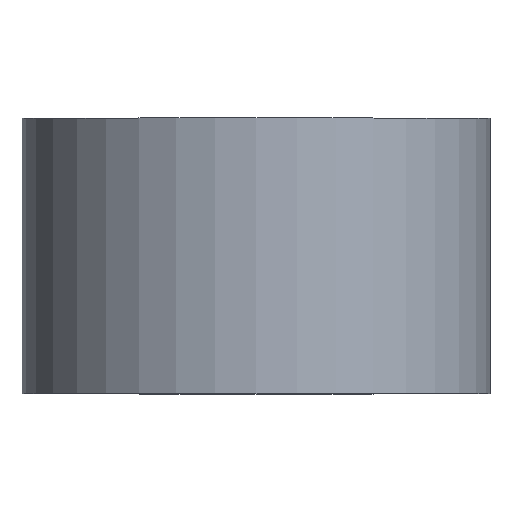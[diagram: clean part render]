
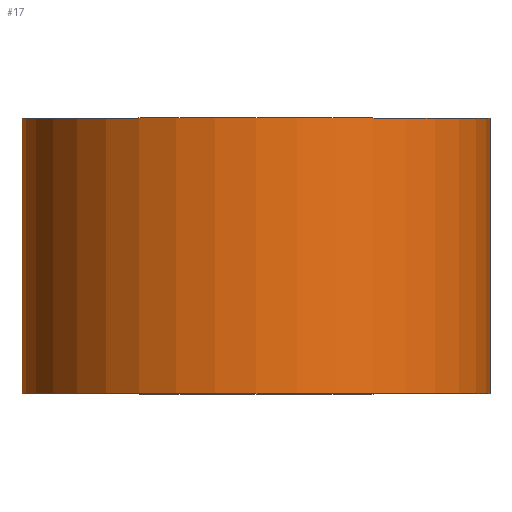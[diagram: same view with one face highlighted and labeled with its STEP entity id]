
A CAD part, top view. The second image highlights one B-rep face of the part: STEP entity #17.
In plain terms, the highlighted cylindrical face has radius 1.7 mm (diameter 3.4 mm), a full revolution.
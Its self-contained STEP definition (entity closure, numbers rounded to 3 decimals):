
#17 = ADVANCED_FACE('',(#18),#45,.T.);
#18 = FACE_BOUND('',#19,.F.);
#19 = EDGE_LOOP('',(#20,#30,#37,#38));
#20 = ORIENTED_EDGE('',*,*,#21,.T.);
#21 = EDGE_CURVE('',#22,#24,#26,.T.);
#22 = VERTEX_POINT('',#23);
#23 = CARTESIAN_POINT('',(1.7,0.,0.));
#24 = VERTEX_POINT('',#25);
#25 = CARTESIAN_POINT('',(1.7,2.,0.));
#26 = LINE('',#27,#28);
#27 = CARTESIAN_POINT('',(1.7,0.,0.));
#28 = VECTOR('',#29,1.);
#29 = DIRECTION('',(0.,1.,0.));
#30 = ORIENTED_EDGE('',*,*,#31,.T.);
#31 = EDGE_CURVE('',#24,#24,#32,.T.);
#32 = CIRCLE('',#33,1.7);
#33 = AXIS2_PLACEMENT_3D('',#34,#35,#36);
#34 = CARTESIAN_POINT('',(0.,2.,0.));
#35 = DIRECTION('',(0.,1.,0.));
#36 = DIRECTION('',(1.,0.,0.));
#37 = ORIENTED_EDGE('',*,*,#21,.F.);
#38 = ORIENTED_EDGE('',*,*,#39,.F.);
#39 = EDGE_CURVE('',#22,#22,#40,.T.);
#40 = CIRCLE('',#41,1.7);
#41 = AXIS2_PLACEMENT_3D('',#42,#43,#44);
#42 = CARTESIAN_POINT('',(0.,0.,0.));
#43 = DIRECTION('',(0.,1.,0.));
#44 = DIRECTION('',(1.,0.,0.));
#45 = CYLINDRICAL_SURFACE('',#46,1.7);
#46 = AXIS2_PLACEMENT_3D('',#47,#48,#49);
#47 = CARTESIAN_POINT('',(0.,0.,0.));
#48 = DIRECTION('',(-0.,-1.,0.));
#49 = DIRECTION('',(1.,0.,0.));
